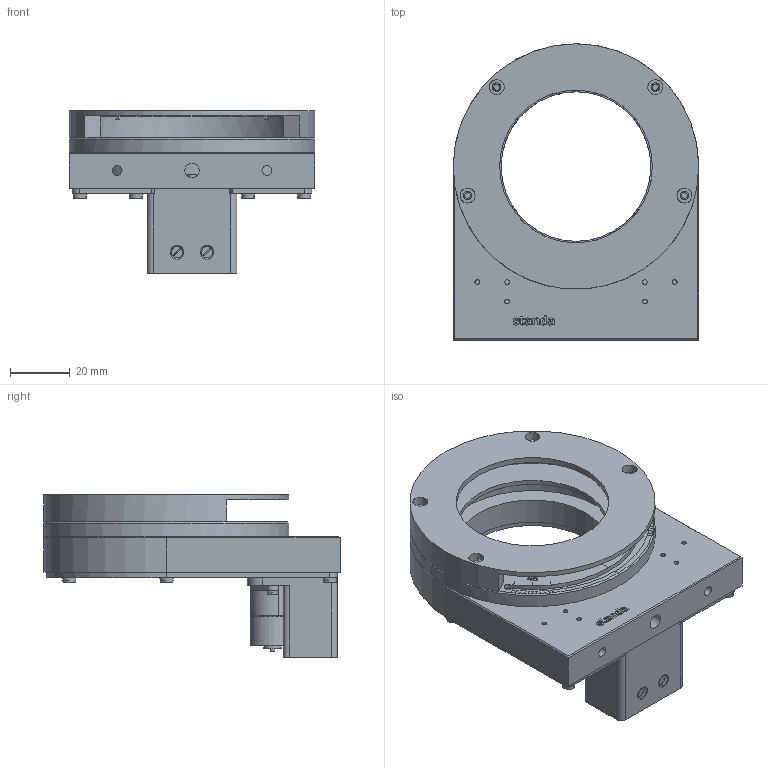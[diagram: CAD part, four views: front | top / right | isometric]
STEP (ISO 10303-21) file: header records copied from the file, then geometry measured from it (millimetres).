
FILE_DESCRIPTION(/* description */ (''),/* implementation_level */ '2;1');
FILE_NAME(/* name */ 'C:\Users\dsgn32\Desktop\8MID40-70 SB.stp',/* time_stamp */ '2016-11-14T14:29:41+02:00',/* author */ ('dsgn32'),/* organization */ (''),/* preprocessor_version */ 'ST-DEVELOPER v15.2',/* originating_system */ 'Autodesk Inventor 2014',/* authorisation */ '');
FILE_SCHEMA (('AUTOMOTIVE_DESIGN { 1 0 10303 214 3 1 1 }'));
Length unit declared in the file: millimetre
Products named in the file (2): Part4; Assembly2
Bounding box: 82 x 99 x 54.35 mm (x, y, z)
Volume: 88322.8 mm3; surface area: 47989 mm2
Topology: 1 solids, 17 shells, 766 faces, 2067 edges, 1372 vertices
Faces by surface type: plane 449, cylinder 150, bspline 102, cone 47, torus 18
Full cylindrical faces by diameter (mm): 1.5 x1, 1.567 x12, 1.783 x2, 2 x8, 2.013 x9, 2.2 x2, 2.256 x6, 2.3 x4, 2.4 x2, 2.459 x2, 2.5 x9, 2.9 x14, 3 x1, 3.242 x2, 3.5 x2, 4.917 x1, 5 x9, 5.9 x1, 6 x1, 7 x1, 12.925 x1, 15 x1, 50 x2, 51 x2, 61 x1, 69.474 x1, 82 x2
Entity records: 23659 total; most frequent: CARTESIAN_POINT 5832, ORIENTED_EDGE 3634, DIRECTION 3455, EDGE_CURVE 1817, VERTEX_POINT 1268, AXIS2_PLACEMENT_3D 1233, EDGE_LOOP 1019, LINE 989
